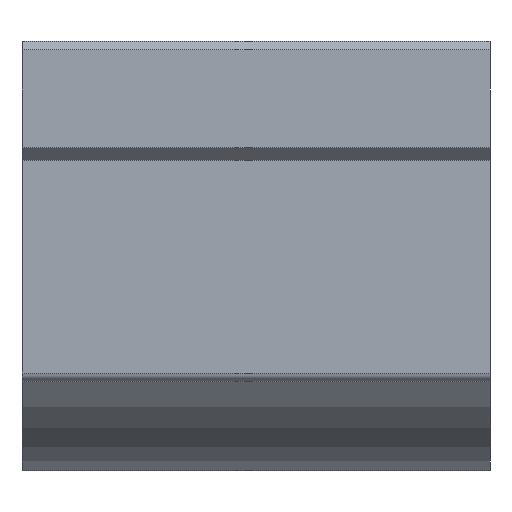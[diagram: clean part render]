
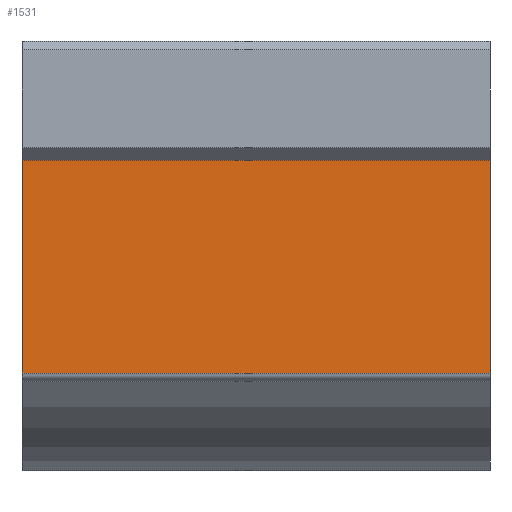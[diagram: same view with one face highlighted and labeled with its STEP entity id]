
A CAD part, front view. The second image highlights one B-rep face of the part: STEP entity #1531.
In plain terms, the highlighted planar face has unit normal (0, -1, 0).
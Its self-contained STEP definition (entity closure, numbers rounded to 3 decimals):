
#1268=CARTESIAN_POINT('',(110.0,-58.,24.));
#1269=VERTEX_POINT('',#1268);
#1276=CARTESIAN_POINT('',(110.0,-58.0,-26.));
#1277=VERTEX_POINT('',#1276);
#1278=CARTESIAN_POINT('',(110.0,-58.0,-26.));
#1279=DIRECTION('',(0.0,0.0,1.0));
#1280=VECTOR('',#1279,50.);
#1281=LINE('',#1278,#1280);
#1282=EDGE_CURVE('',#1277,#1269,#1281,.T.);
#1346=CARTESIAN_POINT('',(0.0,-58.0,-26.));
#1347=VERTEX_POINT('',#1346);
#1348=CARTESIAN_POINT('',(110.0,-58.0,-26.));
#1349=DIRECTION('',(-1.0,0.0,0.0));
#1350=VECTOR('',#1349,110.0);
#1351=LINE('',#1348,#1350);
#1352=EDGE_CURVE('',#1277,#1347,#1351,.T.);
#1412=CARTESIAN_POINT('',(0.0,-58.,24.));
#1413=VERTEX_POINT('',#1412);
#1414=CARTESIAN_POINT('',(0.0,-58.,24.));
#1415=DIRECTION('',(0.0,0.0,-1.0));
#1416=VECTOR('',#1415,50.);
#1417=LINE('',#1414,#1416);
#1418=EDGE_CURVE('',#1413,#1347,#1417,.T.);
#1515=CARTESIAN_POINT('',(0.0,-58.0,-28.));
#1516=DIRECTION('',(0.0,-1.0,0.0));
#1517=DIRECTION('',(0.0,0.0,-1.0));
#1518=AXIS2_PLACEMENT_3D('',#1515,#1516,#1517);
#1519=PLANE('',#1518);
#1520=ORIENTED_EDGE('',*,*,#1352,.F.);
#1521=ORIENTED_EDGE('',*,*,#1282,.T.);
#1522=CARTESIAN_POINT('',(0.0,-58.,24.));
#1523=DIRECTION('',(1.0,0.0,0.0));
#1524=VECTOR('',#1523,110.0);
#1525=LINE('',#1522,#1524);
#1526=EDGE_CURVE('',#1413,#1269,#1525,.T.);
#1527=ORIENTED_EDGE('',*,*,#1526,.F.);
#1528=ORIENTED_EDGE('',*,*,#1418,.T.);
#1529=EDGE_LOOP('',(#1520,#1521,#1527,#1528));
#1530=FACE_OUTER_BOUND('',#1529,.T.);
#1531=ADVANCED_FACE('',(#1530),#1519,.T.);
